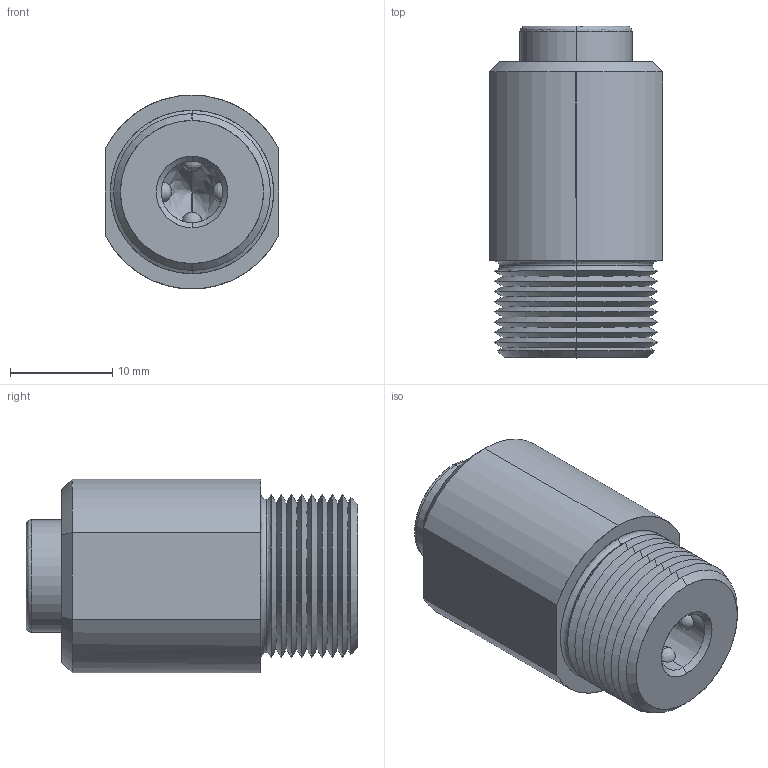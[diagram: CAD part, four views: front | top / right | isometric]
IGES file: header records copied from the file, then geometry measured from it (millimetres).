
Start section: SolidWorks IGES file using analytic representation for surfaces
Global section: file name: C:\Users\liam_\OneDrive\Documents\WORK\Work for WixRoyd\Job Files\J-00025 - Matt Davis CAD - 20191106\04. CAD Drawings\Wixroyd20191106\33925_v2\33925_v2_20191118_IGES\Default.igs; native system: SolidWorks 2017; preprocessor: SolidWorks 2017; author: liam_; date: 191118.211459; units: millimetre
Bounding box: 17 x 32.5 x 19 mm (x, y, z)
Surface area: 2736.1 mm2 (no closed solid volume)
Topology: 0 solids, 0 shells, 70 faces, 714 edges, 704 vertices
Faces by surface type: revolution 56, bspline 14
